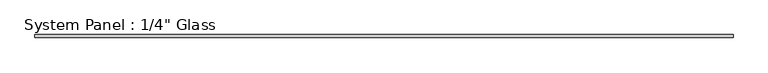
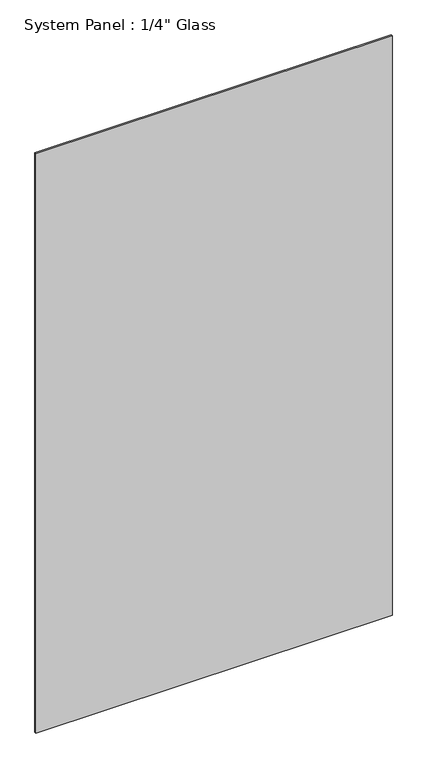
"""IFC4 building model written with IfcOpenShell, lengths in millimetres: plate geometry."""

from ifc_helpers import new_model, si_unit, origin, origin_with_axes, place, context, project, spatial, polyline, outline, extrude, source, transform, mapped, element, save


def plate_d12b1ad5(model_context):
    return source(origin(), model_context, "Body", "SweptSolid", [
        extrude(outline(polyline([(723.952332, -3.175), (-723.952332, -3.175), (-723.952332, 3.175), (723.952332, 3.175), (723.952332, -3.175)])), origin_with_axes(), (0.0, 0.0, 1.0), 2489.2),
    ])


if __name__ == "__main__":
    model = new_model("IFC4")
    model_context = context("Model", 3, world=origin())
    ifc_project = project(units=[si_unit("LENGTHUNIT", "METRE", prefix="MILLI")], contexts=[model_context])
    site = spatial("IfcSite", under=ifc_project)
    building = spatial("IfcBuilding", under=site)
    placement = place(None, origin())
    plate_shape = plate_d12b1ad5(model_context)
    element("IfcPlate", 1, ObjectType="System Panel : 1/4\" Glass", at=placement, inside=building, context=model_context, shape_type="MappedRepresentation", body=[
        mapped(plate_shape, transform((0.0, 0.0, 0.0), x_axis=(1.0, 0.0, 0.0), y_axis=(0.0, 1.0, 0.0), z_axis=(0.0, 0.0, 1.0))),
    ])
    save(model, "model.ifc")
